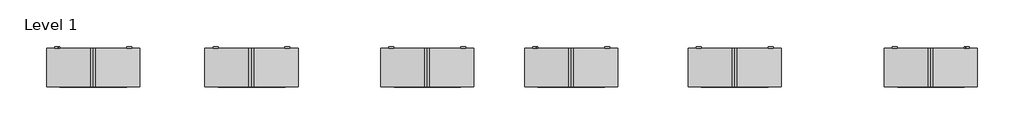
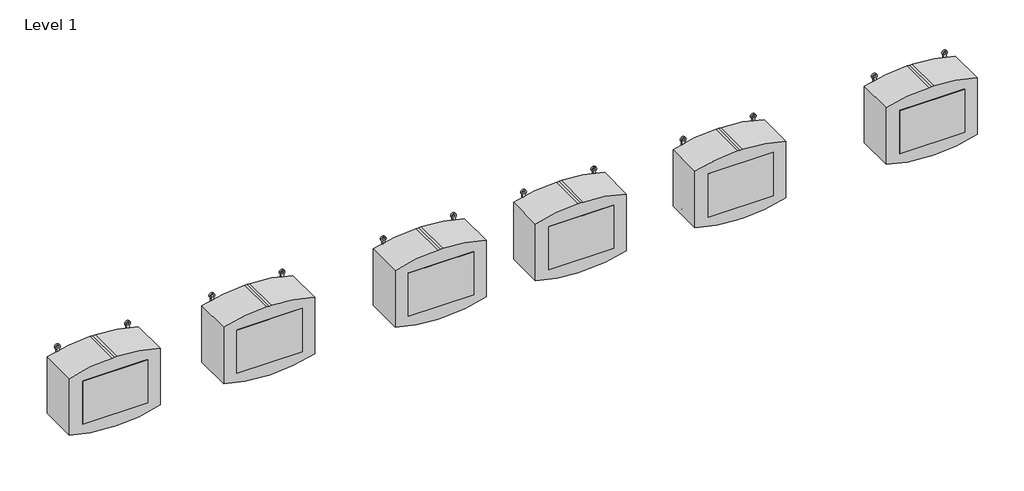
# One storey, incomplete: 6 valves.
"""IFC4 building model written with IfcOpenShell, lengths in millimetres."""

from ifc_helpers import new_model, si_unit, origin, place, context, project, spatial, transform, mapped, element, save
from components import valve_2fffbe04

model = new_model("IFC4")

# Units and contexts
model_context = context("Model", 3, world=origin())
ifc_project = project(units=[si_unit("LENGTHUNIT", "METRE", prefix="MILLI")], contexts=[model_context])

# Site, building, storey
site = spatial("IfcSite", under=ifc_project)
building = spatial("IfcBuilding", under=site)
storey = spatial("IfcBuildingStorey", under=building, Name="Level 1", Elevation=0.0)

# Valves
placement = place(None, origin())
valve_shape = valve_2fffbe04(model_context)
element("IfcValve", 1, ObjectType="Flow Meter SYS-1000 ONICON_rev : Flow Meter SYS-1000 ONICON_rev", at=placement, inside=storey, context=model_context, shape_type="MappedRepresentation", body=[
    mapped(valve_shape, transform((2469.1130435, 2592.2815682, 0.0), x_axis=(1.0, 0.0, 0.0), y_axis=(0.0, 1.0, 0.0), z_axis=(0.0, 0.0, 1.0))),
])
element("IfcValve", 2, ObjectType="Flow Meter SYS-1000 ONICON_rev : Flow Meter SYS-1000 ONICON_rev", at=placement, inside=storey, context=model_context, shape_type="MappedRepresentation", body=[
    mapped(valve_shape, transform((3137.4028986, 2592.2815682, 0.0), x_axis=(1.0, 0.0, 0.0), y_axis=(0.0, 1.0, 0.0), z_axis=(0.0, 0.0, 1.0))),
])
element("IfcValve", 3, ObjectType="Flow Meter SYS-1000 ONICON_rev : Flow Meter SYS-1000 ONICON_rev", at=placement, inside=storey, context=model_context, shape_type="MappedRepresentation", body=[
    mapped(valve_shape, transform((1867.142029, 2592.2815682, 0.0), x_axis=(1.0, 0.0, 0.0), y_axis=(0.0, 1.0, 0.0), z_axis=(0.0, 0.0, 1.0))),
])
element("IfcValve", 4, ObjectType="Flow Meter SYS-1000 ONICON_rev : Flow Meter SYS-1000 ONICON_rev", at=placement, inside=storey, context=model_context, shape_type="MappedRepresentation", body=[
    mapped(valve_shape, transform((3684.5333333, 2592.2815682, 0.0), x_axis=(1.0, 0.0, 0.0), y_axis=(0.0, 1.0, 0.0), z_axis=(0.0, 0.0, 1.0))),
])
element("IfcValve", 5, ObjectType="Flow Meter SYS-1000 ONICON_rev : Flow Meter SYS-1000 ONICON_rev", at=placement, inside=storey, context=model_context, shape_type="MappedRepresentation", body=[
    mapped(valve_shape, transform((4306.4, 2592.2815682, 0.0), x_axis=(1.0, 0.0, 0.0), y_axis=(0.0, 1.0, 0.0), z_axis=(0.0, 0.0, 1.0))),
])
element("IfcValve", 6, ObjectType="Flow Meter SYS-1000 ONICON_rev : Flow Meter SYS-1000 ONICON_rev", at=placement, inside=storey, context=model_context, shape_type="MappedRepresentation", body=[
    mapped(valve_shape, transform((5051.9385507, 2592.2815682, 0.0), x_axis=(1.0, 0.0, 0.0), y_axis=(0.0, 1.0, 0.0), z_axis=(0.0, 0.0, 1.0))),
])

save(model, "model.ifc")
